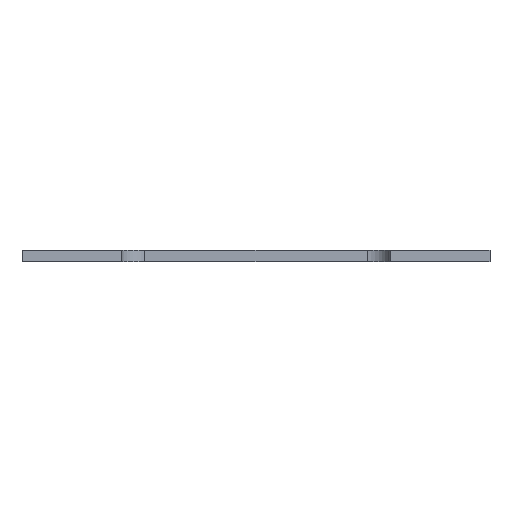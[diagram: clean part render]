
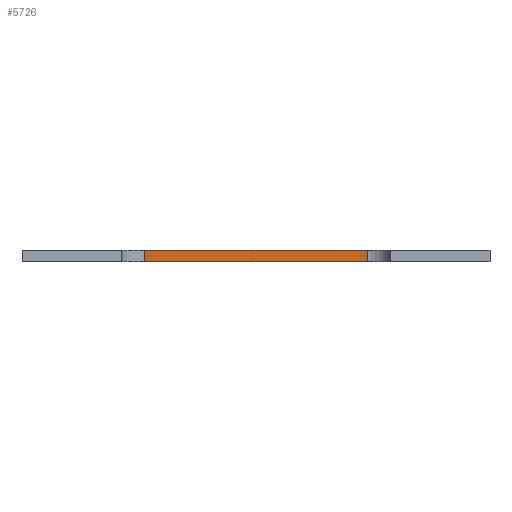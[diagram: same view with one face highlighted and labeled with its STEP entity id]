
A CAD part, front view. The second image highlights one B-rep face of the part: STEP entity #5726.
In plain terms, the highlighted planar face has unit normal (0, -1, 0).
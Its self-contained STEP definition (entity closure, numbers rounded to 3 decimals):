
#544=FACE_OUTER_BOUND($,#858,.T.);
#858=EDGE_LOOP($,(#5210,#5211,#5212,#5213));
#1206=LINE($,#8387,#1882);
#1452=LINE($,#9170,#2128);
#1534=LINE($,#9344,#2210);
#1536=LINE($,#9347,#2212);
#1882=VECTOR($,#6695,238.);
#2128=VECTOR($,#7425,238.);
#2210=VECTOR($,#7673,12.);
#2212=VECTOR($,#7677,12.);
#2468=VERTEX_POINT($,#8384);
#2469=VERTEX_POINT($,#8386);
#2763=VERTEX_POINT($,#9167);
#2764=VERTEX_POINT($,#9169);
#3111=EDGE_CURVE($,#2468,#2469,#1206,.T.);
#3503=EDGE_CURVE($,#2763,#2764,#1452,.T.);
#3590=EDGE_CURVE($,#2469,#2763,#1534,.T.);
#3592=EDGE_CURVE($,#2764,#2468,#1536,.T.);
#5210=ORIENTED_EDGE($,*,*,#3590,.F.);
#5211=ORIENTED_EDGE($,*,*,#3111,.F.);
#5212=ORIENTED_EDGE($,*,*,#3592,.F.);
#5213=ORIENTED_EDGE($,*,*,#3503,.F.);
#5453=PLANE($,#6159);
#5726=ADVANCED_FACE($,(#544),#5453,.F.);
#6159=AXIS2_PLACEMENT_3D($,#9346,#7675,#7676);
#6695=DIRECTION($,(1.,0.,0.));
#7425=DIRECTION($,(-1.,0.,0.));
#7673=DIRECTION($,(0.,0.,-1.));
#7675=DIRECTION('center_axis',(0.,1.,0.));
#7676=DIRECTION('ref_axis',(1.,0.,0.));
#7677=DIRECTION($,(0.,0.,1.));
#8384=CARTESIAN_POINT('',(-119.,-250.,12.));
#8386=CARTESIAN_POINT('',(119.,-250.,12.));
#8387=CARTESIAN_POINT($,(-72.,-250.,12.));
#9167=CARTESIAN_POINT('',(119.,-250.,0.));
#9169=CARTESIAN_POINT('',(-119.,-250.,0.));
#9170=CARTESIAN_POINT($,(-72.,-250.,0.));
#9344=CARTESIAN_POINT($,(119.,-250.,12.));
#9346=CARTESIAN_POINT('Origin',(-144.,-250.,12.));
#9347=CARTESIAN_POINT($,(-119.,-250.,12.));
